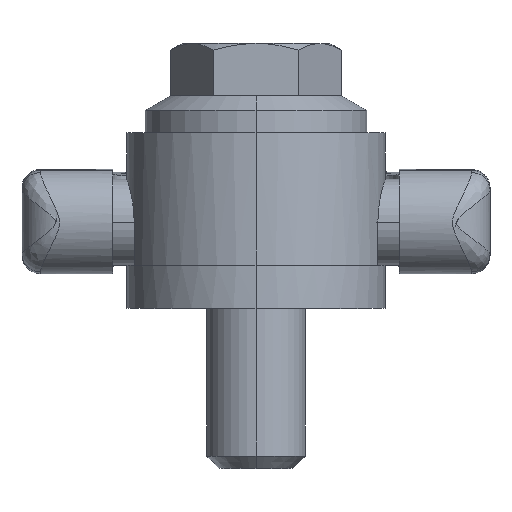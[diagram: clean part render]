
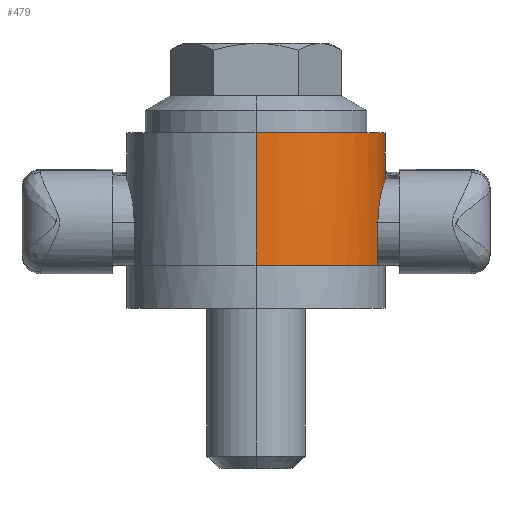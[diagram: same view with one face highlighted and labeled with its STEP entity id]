
A CAD part, top view. The second image highlights one B-rep face of the part: STEP entity #479.
In plain terms, the highlighted cylindrical face has radius 21 mm (diameter 42 mm), a partial arc.
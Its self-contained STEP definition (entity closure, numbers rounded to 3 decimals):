
#372 = EDGE_LOOP ( 'NONE', ( #373, #490, #474, #471, #468, #465, #487, #463 ) ) ;
#373 = ORIENTED_EDGE ( 'NONE', *, *, #374, .F. ) ;
#374 = EDGE_CURVE ( 'NONE', #375, #376, #4145, .T. ) ;
#375 = VERTEX_POINT ( 'NONE', #4024 ) ;
#376 = VERTEX_POINT ( 'NONE', #4023 ) ;
#456 = EDGE_CURVE ( 'NONE', #460, #464, #4215, .T. ) ;
#458 = EDGE_CURVE ( 'NONE', #376, #460, #4216, .T. ) ;
#460 = VERTEX_POINT ( 'NONE', #4327 ) ;
#463 = ORIENTED_EDGE ( 'NONE', *, *, #458, .F. ) ;
#464 = VERTEX_POINT ( 'NONE', #4329 ) ;
#465 = ORIENTED_EDGE ( 'NONE', *, *, #467, .T. ) ;
#466 = VERTEX_POINT ( 'NONE', #4328 ) ;
#467 = EDGE_CURVE ( 'NONE', #466, #464, #4343, .T. ) ;
#468 = ORIENTED_EDGE ( 'NONE', *, *, #488, .T. ) ;
#469 = EDGE_CURVE ( 'NONE', #470, #483, #4224, .T. ) ;
#470 = VERTEX_POINT ( 'NONE', #4388 ) ;
#471 = ORIENTED_EDGE ( 'NONE', *, *, #472, .T. ) ;
#472 = EDGE_CURVE ( 'NONE', #470, #473, #4387, .T. ) ;
#473 = VERTEX_POINT ( 'NONE', #4267 ) ;
#474 = ORIENTED_EDGE ( 'NONE', *, *, #469, .F. ) ;
#479 = ADVANCED_FACE ( 'NONE', ( #4209 ), #4208, .T. ) ;
#483 = VERTEX_POINT ( 'NONE', #4334 ) ;
#484 = EDGE_CURVE ( 'NONE', #375, #483, #4333, .T. ) ;
#487 = ORIENTED_EDGE ( 'NONE', *, *, #456, .F. ) ;
#488 = EDGE_CURVE ( 'NONE', #473, #466, #4271, .T. ) ;
#490 = ORIENTED_EDGE ( 'NONE', *, *, #484, .T. ) ;
#4023 = CARTESIAN_POINT ( 'NONE',  ( 0., 28.5, -21. ) ) ;
#4024 = CARTESIAN_POINT ( 'NONE',  ( 0., 28.5, 21. ) ) ;
#4025 = DIRECTION ( 'NONE',  ( 0., 0., 1. ) ) ;
#4026 = DIRECTION ( 'NONE',  ( 0., 1., 0. ) ) ;
#4027 = CARTESIAN_POINT ( 'NONE',  ( 0., 28.5, 0. ) ) ;
#4144 = AXIS2_PLACEMENT_3D ( 'NONE', #4027, #4026, #4025 ) ;
#4145 = CIRCLE ( 'NONE', #4144, 21. ) ;
#4207 = CARTESIAN_POINT ( 'NONE',  ( 0., 34.5, 0. ) ) ;
#4208 = CYLINDRICAL_SURFACE ( 'NONE', #4230, 21. ) ;
#4209 = FACE_OUTER_BOUND ( 'NONE', #372, .T. ) ;
#4213 = CARTESIAN_POINT ( 'NONE',  ( 0., 7., 0. ) ) ;
#4214 = AXIS2_PLACEMENT_3D ( 'NONE', #4213, #4220, #4219 ) ;
#4215 = CIRCLE ( 'NONE', #4214, 21. ) ;
#4216 = LINE ( 'NONE', #4218, #4339 ) ;
#4218 = CARTESIAN_POINT ( 'NONE',  ( 0., 34.5, -21. ) ) ;
#4219 = DIRECTION ( 'NONE',  ( 0., 0., -1. ) ) ;
#4220 = DIRECTION ( 'NONE',  ( 0., -1., 0. ) ) ;
#4221 = DIRECTION ( 'NONE',  ( 0., -1., 0. ) ) ;
#4222 = CARTESIAN_POINT ( 'NONE',  ( 0., 7., 0. ) ) ;
#4223 = AXIS2_PLACEMENT_3D ( 'NONE', #4222, #4221, #4389 ) ;
#4224 = CIRCLE ( 'NONE', #4223, 21. ) ;
#4228 = DIRECTION ( 'NONE',  ( 0., 0., -1. ) ) ;
#4229 = DIRECTION ( 'NONE',  ( 0., -1., 0. ) ) ;
#4230 = AXIS2_PLACEMENT_3D ( 'NONE', #4207, #4229, #4228 ) ;
#4247 = CARTESIAN_POINT ( 'NONE',  ( 19.953, 16.48, 6.55 ) ) ;
#4248 = CARTESIAN_POINT ( 'NONE',  ( 19.927, 16.261, 6.629 ) ) ;
#4249 = CARTESIAN_POINT ( 'NONE',  ( 19.881, 15.82, 6.763 ) ) ;
#4250 = CARTESIAN_POINT ( 'NONE',  ( 19.862, 15.598, 6.819 ) ) ;
#4251 = CARTESIAN_POINT ( 'NONE',  ( 19.815, 14.923, 6.954 ) ) ;
#4252 = CARTESIAN_POINT ( 'NONE',  ( 19.799, 14.466, 7. ) ) ;
#4253 = CARTESIAN_POINT ( 'NONE',  ( 19.799, 14., 7. ) ) ;
#4267 = CARTESIAN_POINT ( 'NONE',  ( 19.799, 14., 7. ) ) ;
#4268 = DIRECTION ( 'NONE',  ( 0., 1., 0. ) ) ;
#4269 = VECTOR ( 'NONE', #4268, 1000. ) ;
#4271 = B_SPLINE_CURVE_WITH_KNOTS ( 'NONE', 3,
 ( #4253, #4252, #4251, #4250, #4249, #4248, #4247, #4293, #4292, #4291, #4290, #4289, #4288, #4287, #4286, #4321, #4320, #4319, #4318, #4317, #4316, #4315, #4307, #4306, #4305, #4304, #4303, #4302, #4301, #4300, #4376, #4375, #4374, #4373, #4372, #4371, #4370, #4369, #4368, #4313, #4312, #4311, #4310, #4309 ),
 .UNSPECIFIED., .F., .F.,
 ( 4, 2, 2, 2, 2, 2, 2, 2, 2, 2, 2, 2, 2, 2, 2, 2, 2, 2, 2, 2, 2, 4 ),
 ( 0., 0.001, 0.002, 0.003, 0.004, 0.005, 0.006, 0.007, 0.008, 0.009, 0.01, 0.011, 0.012, 0.014, 0.015, 0.016, 0.017, 0.018, 0.019, 0.021, 0.021, 0.022 ),
 .UNSPECIFIED. ) ;
#4286 = CARTESIAN_POINT ( 'NONE',  ( 20.563, 19.558, 4.28 ) ) ;
#4287 = CARTESIAN_POINT ( 'NONE',  ( 20.486, 19.269, 4.63 ) ) ;
#4288 = CARTESIAN_POINT ( 'NONE',  ( 20.369, 18.789, 5.11 ) ) ;
#4289 = CARTESIAN_POINT ( 'NONE',  ( 20.33, 18.621, 5.263 ) ) ;
#4290 = CARTESIAN_POINT ( 'NONE',  ( 20.253, 18.268, 5.553 ) ) ;
#4291 = CARTESIAN_POINT ( 'NONE',  ( 20.215, 18.083, 5.69 ) ) ;
#4292 = CARTESIAN_POINT ( 'NONE',  ( 20.105, 17.515, 6.071 ) ) ;
#4293 = CARTESIAN_POINT ( 'NONE',  ( 20.038, 17.114, 6.286 ) ) ;
#4300 = CARTESIAN_POINT ( 'NONE',  ( 20.6, 19.692, -4.081 ) ) ;
#4301 = CARTESIAN_POINT ( 'NONE',  ( 20.707, 20.07, -3.515 ) ) ;
#4302 = CARTESIAN_POINT ( 'NONE',  ( 20.773, 20.288, -3.111 ) ) ;
#4303 = CARTESIAN_POINT ( 'NONE',  ( 20.883, 20.642, -2.259 ) ) ;
#4304 = CARTESIAN_POINT ( 'NONE',  ( 20.926, 20.775, -1.821 ) ) ;
#4305 = CARTESIAN_POINT ( 'NONE',  ( 20.985, 20.954, -0.92 ) ) ;
#4306 = CARTESIAN_POINT ( 'NONE',  ( 21., 21., -0.453 ) ) ;
#4307 = CARTESIAN_POINT ( 'NONE',  ( 21., 21., 0.468 ) ) ;
#4309 = CARTESIAN_POINT ( 'NONE',  ( 19.799, 14., -7. ) ) ;
#4310 = CARTESIAN_POINT ( 'NONE',  ( 19.799, 14.233, -7. ) ) ;
#4311 = CARTESIAN_POINT ( 'NONE',  ( 19.803, 14.465, -6.988 ) ) ;
#4312 = CARTESIAN_POINT ( 'NONE',  ( 19.819, 14.927, -6.942 ) ) ;
#4313 = CARTESIAN_POINT ( 'NONE',  ( 19.832, 15.158, -6.907 ) ) ;
#4315 = CARTESIAN_POINT ( 'NONE',  ( 20.985, 20.954, 0.924 ) ) ;
#4316 = CARTESIAN_POINT ( 'NONE',  ( 20.94, 20.818, 1.603 ) ) ;
#4317 = CARTESIAN_POINT ( 'NONE',  ( 20.921, 20.761, 1.829 ) ) ;
#4318 = CARTESIAN_POINT ( 'NONE',  ( 20.878, 20.626, 2.269 ) ) ;
#4319 = CARTESIAN_POINT ( 'NONE',  ( 20.854, 20.548, 2.484 ) ) ;
#4320 = CARTESIAN_POINT ( 'NONE',  ( 20.772, 20.286, 3.114 ) ) ;
#4321 = CARTESIAN_POINT ( 'NONE',  ( 20.707, 20.07, 3.516 ) ) ;
#4327 = CARTESIAN_POINT ( 'NONE',  ( 0., 7., -21. ) ) ;
#4328 = CARTESIAN_POINT ( 'NONE',  ( 19.799, 14., -7. ) ) ;
#4329 = CARTESIAN_POINT ( 'NONE',  ( 19.799, 7., -7. ) ) ;
#4331 = DIRECTION ( 'NONE',  ( 0., -1., 0. ) ) ;
#4332 = CARTESIAN_POINT ( 'NONE',  ( 0., 34.5, 21. ) ) ;
#4333 = LINE ( 'NONE', #4332, #4385 ) ;
#4334 = CARTESIAN_POINT ( 'NONE',  ( 0., 7., 21. ) ) ;
#4338 = DIRECTION ( 'NONE',  ( 0., -1., 0. ) ) ;
#4339 = VECTOR ( 'NONE', #4338, 1000. ) ;
#4340 = DIRECTION ( 'NONE',  ( 0., -1., 0. ) ) ;
#4341 = VECTOR ( 'NONE', #4340, 1000. ) ;
#4342 = CARTESIAN_POINT ( 'NONE',  ( 19.799, 34.5, -7. ) ) ;
#4343 = LINE ( 'NONE', #4342, #4341 ) ;
#4368 = CARTESIAN_POINT ( 'NONE',  ( 19.879, 15.837, -6.77 ) ) ;
#4369 = CARTESIAN_POINT ( 'NONE',  ( 19.925, 16.273, -6.636 ) ) ;
#4370 = CARTESIAN_POINT ( 'NONE',  ( 20.038, 17.115, -6.285 ) ) ;
#4371 = CARTESIAN_POINT ( 'NONE',  ( 20.107, 17.524, -6.065 ) ) ;
#4372 = CARTESIAN_POINT ( 'NONE',  ( 20.253, 18.279, -5.558 ) ) ;
#4373 = CARTESIAN_POINT ( 'NONE',  ( 20.33, 18.629, -5.271 ) ) ;
#4374 = CARTESIAN_POINT ( 'NONE',  ( 20.448, 19.112, -4.787 ) ) ;
#4375 = CARTESIAN_POINT ( 'NONE',  ( 20.487, 19.267, -4.617 ) ) ;
#4376 = CARTESIAN_POINT ( 'NONE',  ( 20.563, 19.556, -4.264 ) ) ;
#4385 = VECTOR ( 'NONE', #4331, 1000. ) ;
#4386 = CARTESIAN_POINT ( 'NONE',  ( 19.799, 34.5, 7. ) ) ;
#4387 = LINE ( 'NONE', #4386, #4269 ) ;
#4388 = CARTESIAN_POINT ( 'NONE',  ( 19.799, 7., 7. ) ) ;
#4389 = DIRECTION ( 'NONE',  ( 0., 0., -1. ) ) ;
